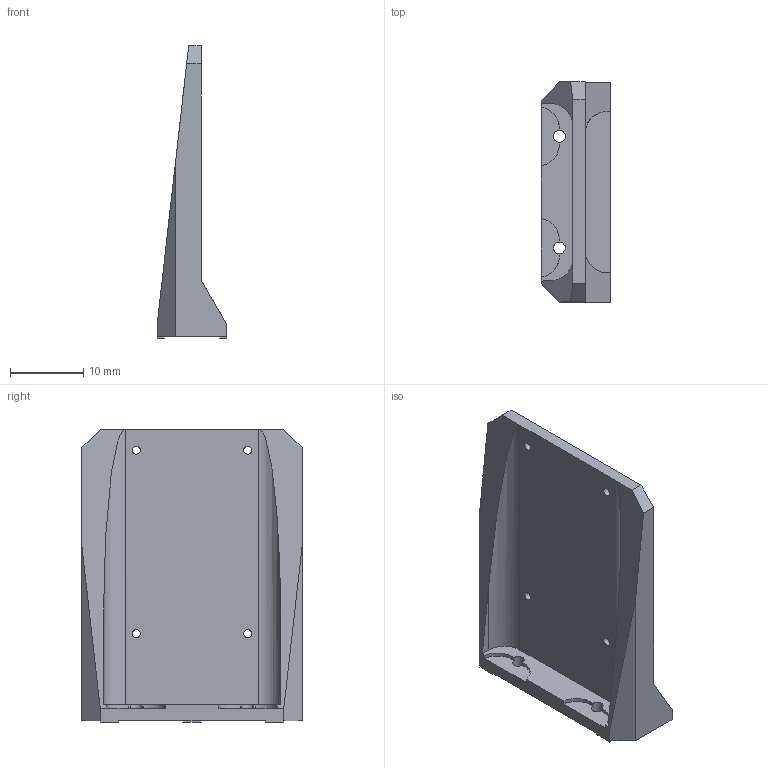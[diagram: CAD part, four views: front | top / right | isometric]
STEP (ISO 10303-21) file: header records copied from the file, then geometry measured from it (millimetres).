
FILE_DESCRIPTION(/* description */ (''),/* implementation_level */ '2;1');
FILE_NAME(/* name */ 'P181232B.stp',/* time_stamp */ '2020-11-17T08:49:21+01:00',/* author */ (''),/* organization */ (''),/* preprocessor_version */ 'ST-DEVELOPER v16.7',/* originating_system */ 'SIEMENS PLM Software NX 1942',/* authorisation */ '');
FILE_SCHEMA (('AUTOMOTIVE_DESIGN { 1 0 10303 214 3 1 1 1 }'));
Length unit declared in the file: millimetre
Products named in the file (1): P181232B
Bounding box: 9.5 x 30 x 39.9 mm (x, y, z)
Volume: 3076.1 mm3; surface area: 3314.2 mm2
Topology: 1 solids, 1 shells, 54 faces, 158 edges, 104 vertices
Faces by surface type: plane 40, cylinder 14
Full cylindrical faces by diameter (mm): 1.1 x4, 1.6 x2
Entity records: 1746 total; most frequent: CARTESIAN_POINT 299, ORIENTED_EDGE 292, DIRECTION 288, EDGE_CURVE 146, LINE 114, VECTOR 114, VERTEX_POINT 98, AXIS2_PLACEMENT_3D 87
